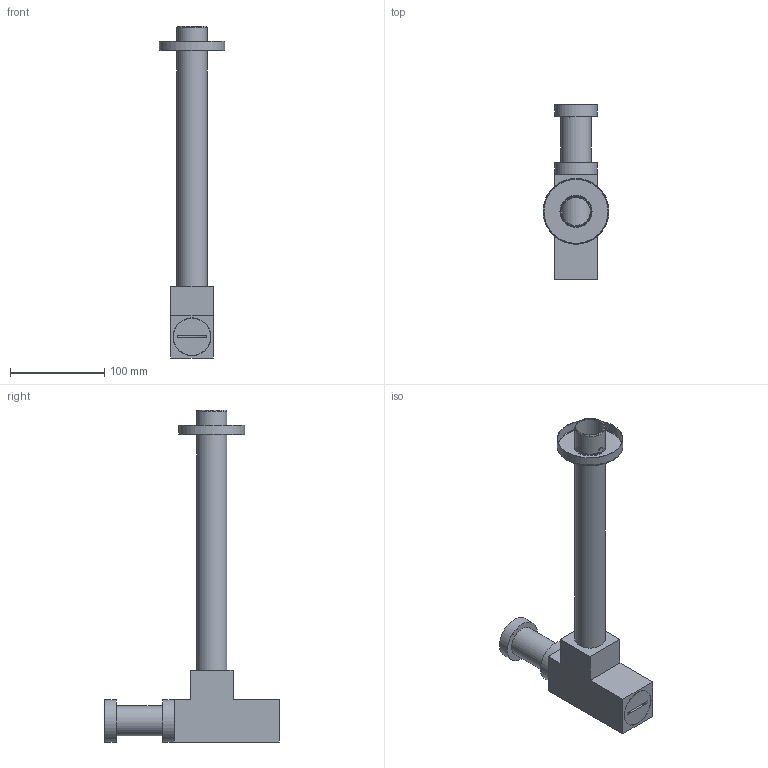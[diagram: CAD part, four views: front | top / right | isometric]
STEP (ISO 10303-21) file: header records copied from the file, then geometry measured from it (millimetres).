
FILE_DESCRIPTION(/* description */ (''),/* implementation_level */ '2;1');
FILE_NAME(/* name */ 'c:\worker\convert-fusion-apr-2019\tmp\job-1\22\output\files\cf748c46-aa28-48b8-848b-6fefd8662a69\f201909a-b286-4dd7-af27-1a634d91ba31.stp',/* time_stamp */ '2019-04-15T12:53:40+00:00',/* author */ (''),/* organization */ (''),/* preprocessor_version */ 'ST-DEVELOPER v18',/* originating_system */ 'Autodesk Translation Framework v8.2.0.1029',/* authorisation */ '');
FILE_SCHEMA (('AUTOMOTIVE_DESIGN { 1 0 10303 214 3 1 1 }'));
Length unit declared in the file: millimetre
Products named in the file (1): !A5555
Bounding box: 70 x 185.12 x 352.52 mm (x, y, z)
Volume: 149087.6 mm3; surface area: 181066.9 mm2
Topology: 12 solids, 12 shells, 167 faces, 463 edges, 336 vertices
Faces by surface type: cylinder 64, plane 64, cone 18, torus 13, bspline 8
Full cylindrical faces by diameter (mm): 27 x1, 31 x1, 31.24 x2, 31.6 x3, 32 x7, 32.5 x5, 33 x1, 34 x1, 34.03 x1, 34.5 x1, 36 x2, 36.5 x2, 38 x3, 38.5 x1, 39.5 x7, 40 x1, 40.2 x1, 41.8 x2, 42 x4, 45 x2, 69 x1, 70 x1
Entity records: 10612 total; most frequent: CARTESIAN_POINT 6232, ORIENTED_EDGE 926, DIRECTION 906, EDGE_CURVE 463, AXIS2_PLACEMENT_3D 385, VERTEX_POINT 336, CIRCLE 221, EDGE_LOOP 207
